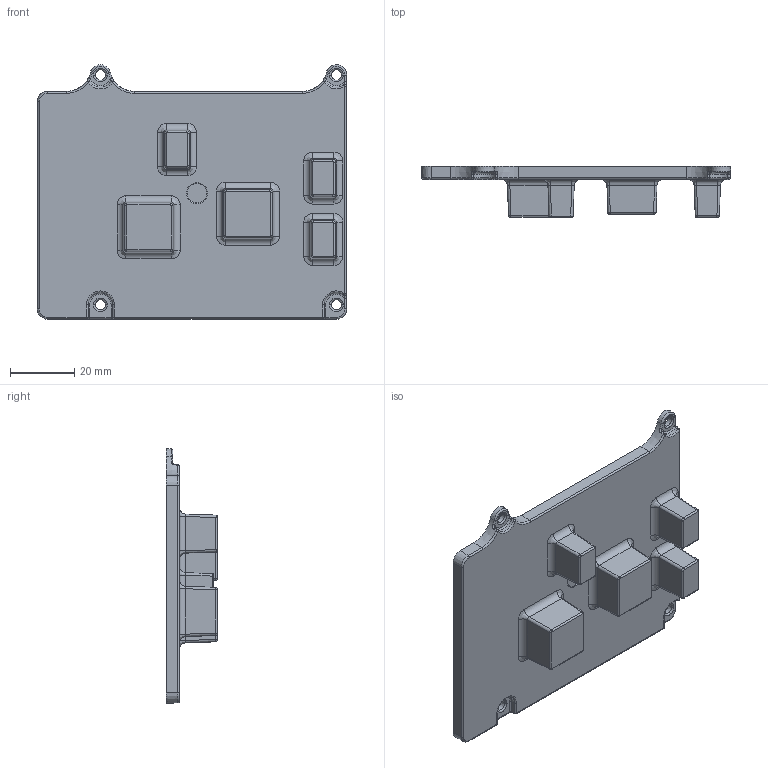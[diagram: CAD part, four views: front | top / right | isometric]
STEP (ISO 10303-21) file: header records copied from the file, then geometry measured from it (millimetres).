
FILE_DESCRIPTION((''),'2;1');
FILE_NAME('CD_NI-9695','2012-08-06T',('jbuhisan'),(''),'PRO/ENGINEER BY PARAMETRIC TECHNOLOGY CORPORATION, 2010230','PRO/ENGINEER BY PARAMETRIC TECHNOLOGY CORPORATION, 2010230','');
FILE_SCHEMA(('CONFIG_CONTROL_DESIGN'));
Length unit declared in the file: inch
Products named in the file (1): CD_NI-9695
Bounding box: 96.52 x 15.94 x 79.41 mm (x, y, z)
Volume: 36280.9 mm3; surface area: 17654.1 mm2
Topology: 1 solids, 1 shells, 231 faces, 520 edges, 297 vertices
Faces by surface type: cylinder 79, bspline 53, plane 40, torus 31, cone 20, sphere 8
Entity records: 8669 total; most frequent: CARTESIAN_POINT 3756, ORIENTED_EDGE 1040, DIRECTION 997, EDGE_CURVE 520, AXIS2_PLACEMENT_3D 405, VERTEX_POINT 297, EDGE_LOOP 245, FACE_OUTER_BOUND 231
